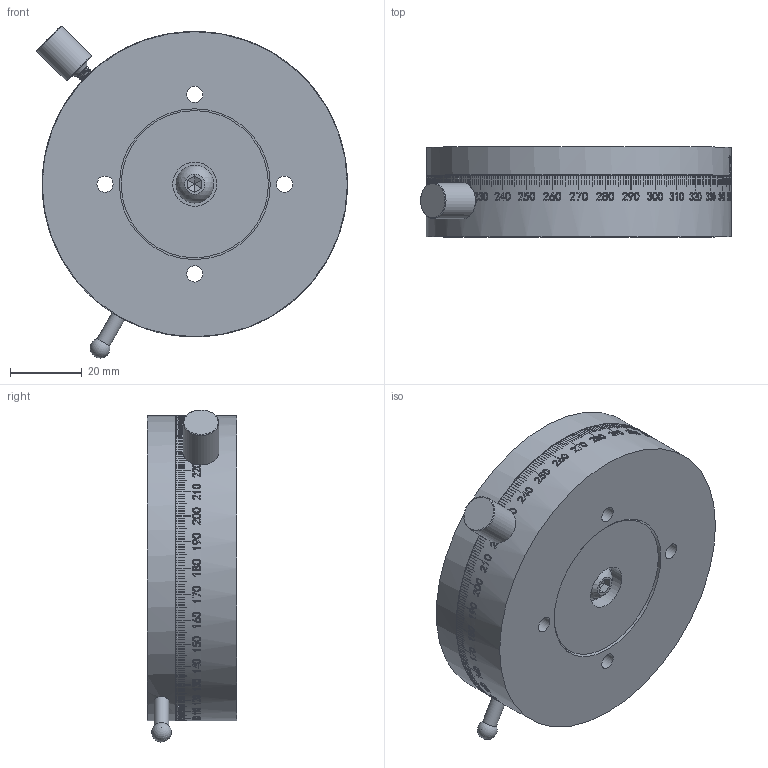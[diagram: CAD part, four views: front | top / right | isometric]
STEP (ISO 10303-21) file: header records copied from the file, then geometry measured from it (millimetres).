
FILE_DESCRIPTION (( 'STEP AP203' ), '1' );
FILE_NAME ('BER85.STEP', '2024-07-09T05:39:05', ( 'Windows User' ), ( 'P R C' ), 'SwSTEP 2.0', 'SolidWorks 2024', '' );
FILE_SCHEMA (( 'CONFIG_CONTROL_DESIGN' ));
Products named in the file (1): BER85
Bounding box: 86.55 x 25 x 92.47 mm (x, y, z)
Volume: 139734.9 mm3; surface area: 39770.4 mm2
Topology: 6 solids, 6 shells, 2350 faces, 6495 edges, 4330 vertices
Faces by surface type: bspline 1056, plane 688, cylinder 592, cone 12, sphere 2
Full cylindrical faces by diameter (mm): 2.5 x1, 2.8 x1, 2.9 x1, 3.3 x19, 4 x1, 4.5 x4, 5 x1, 6 x1, 6.2 x1, 8 x8, 10 x1, 12.3 x1, 35 x2, 36 x3, 41 x1, 42 x1, 60 x1, 85 x2
Entity records: 191553 total; most frequent: CARTESIAN_POINT 143374, ORIENTED_EDGE 12624, EDGE_CURVE 6312, DIRECTION 5415, B_SPLINE_CURVE_WITH_KNOTS 4605, VERTEX_POINT 4296, EDGE_LOOP 2720, FACE_OUTER_BOUND 2487
